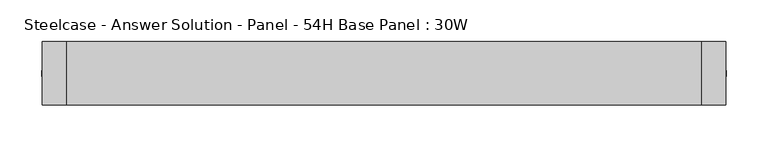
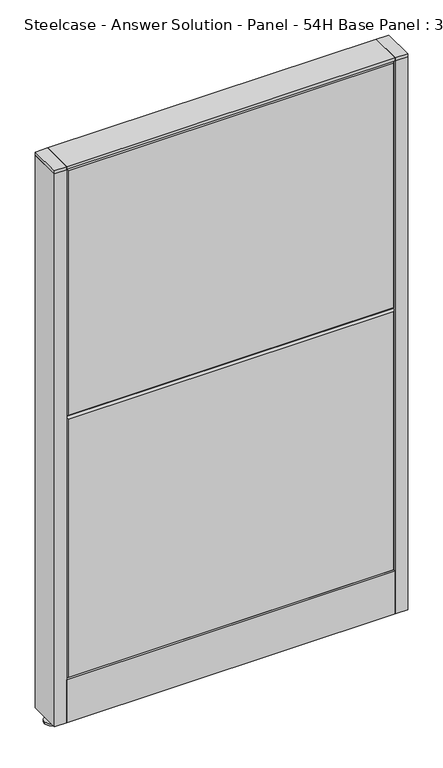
"""IFC4 building model written with IfcOpenShell, lengths in millimetres: furniture geometry, Steelcase - Answer Solution - Panel - 54H Base Panel : 30W."""

import ifcopenshell
import ifcopenshell.guid

model = None  # the IFC model being written
_history = None  # IfcOwnerHistory: only IFC2X3 demands one
_inside = {}  # id of a spatial element -> (the spatial element, [elements in it])
_under = {}  # id of a project, library or spatial element -> (it, [spatial elements below it])
_declared = {}  # id of a project -> (the project, [libraries it declares])
_typed = {}  # id of a type object -> (the type object, [elements of that type])
_made_of = {}  # id of a material, layer set ... -> (it, [elements and type objects made of it])


def new_model(schema):
    """Start an empty IFC model of exactly this schema.

    Asked for "IFC4X3", IfcOpenShell would pick the latest addendum, in which some entities
    have other attributes; the version numbers below select the first issue.
    IFC2X3 requires an IfcOwnerHistory on every rooted entity: one is made here for all.
    """
    global model, _history
    if schema == "IFC4X3":
        model = ifcopenshell.file(schema_version=(4, 3, 0, 0))
    else:
        model = ifcopenshell.file(schema=schema)
    _inside.clear()
    _under.clear()
    _declared.clear()
    _typed.clear()
    _made_of.clear()
    _history = None
    if model.schema == "IFC2X3":
        org = make("IfcOrganization", Name="unknown")
        user = make(
            "IfcPersonAndOrganization",
            ThePerson=make("IfcPerson", FamilyName="unknown"),
            TheOrganization=org,
        )
        app = make(
            "IfcApplication",
            ApplicationDeveloper=org,
            Version="unknown",
            ApplicationFullName="unknown",
            ApplicationIdentifier="unknown",
        )
        _history = make(
            "IfcOwnerHistory",
            OwningUser=user,
            OwningApplication=app,
            ChangeAction="ADDED",
            CreationDate=0,
        )
    return model


def make(cls, **values):
    """One entity of the class cls with the attributes given. An attribute that is None is left unset."""
    return model.create_entity(
        cls, **{name: value for name, value in values.items() if value is not None}
    )


def rooted(cls, **values):
    """An entity with a GlobalId (a new one), such as an element, a storey or a relation."""
    return make(cls, GlobalId=ifcopenshell.guid.new(), OwnerHistory=_history, **values)


def si_unit(unit_type, name, prefix=None):
    """IfcSIUnit, for example si_unit("LENGTHUNIT", "METRE", prefix="MILLI")."""
    return make("IfcSIUnit", UnitType=unit_type, Prefix=prefix, Name=name)


def assignment(units):
    """IfcUnitAssignment: the units of a project."""
    return None if units is None else make("IfcUnitAssignment", Units=units)


def point(xyz):
    """IfcCartesianPoint."""
    return None if xyz is None else make("IfcCartesianPoint", Coordinates=xyz)


def direction(xyz):
    """IfcDirection."""
    return None if xyz is None else make("IfcDirection", DirectionRatios=xyz)


def frame(location, z_axis=None, x_axis=None):
    """IfcAxis2Placement3D, a coordinate frame: its origin and axes. An axis left out is left unset."""
    return make(
        "IfcAxis2Placement3D",
        Location=point(location),
        Axis=direction(z_axis),
        RefDirection=direction(x_axis),
    )


def frame_2d(location, x_axis=None):
    """IfcAxis2Placement2D, a coordinate frame in the plane: its origin and x axis."""
    return make(
        "IfcAxis2Placement2D", Location=point(location), RefDirection=direction(x_axis)
    )


def origin():
    """The frame at (0, 0, 0) with its axes left unset."""
    return frame((0.0, 0.0, 0.0))


def place(relative_to, where):
    """IfcLocalPlacement: puts the frame where relative to a parent placement (None: the world)."""
    return make(
        "IfcLocalPlacement", PlacementRelTo=relative_to, RelativePlacement=where
    )


def context(
    kind, dimensions, precision=None, world=None, true_north=None, identifier=None
):
    """IfcGeometricRepresentationContext, for example the 3D "Model" context."""
    return make(
        "IfcGeometricRepresentationContext",
        ContextIdentifier=identifier,
        ContextType=kind,
        CoordinateSpaceDimension=dimensions,
        Precision=precision,
        WorldCoordinateSystem=world,
        TrueNorth=true_north,
    )


def project(units=None, contexts=None):
    """IfcProject with its units and contexts."""
    return rooted(
        "IfcProject",
        Name="project",
        RepresentationContexts=contexts,
        UnitsInContext=assignment(units),
    )


def spatial(cls, under=None, at=None, **own):
    """A site, building, storey or space (cls), placed at a placement, below another one or the project."""
    s = rooted(cls, ObjectPlacement=at, **own)
    if under is not None:
        _under.setdefault(under.id(), (under, []))[1].append(s)
    return s


def polyline(points):
    """IfcPolyline through the points."""
    return make("IfcPolyline", Points=[point(p) for p in points])


def circle_curve(where, radius):
    """IfcCircle in the frame where."""
    return make("IfcCircle", Position=where, Radius=radius)


def trimmed(basis, trim1, trim2, sense, master):
    """IfcTrimmedCurve: the piece of a basis curve between two trims."""
    return make(
        "IfcTrimmedCurve",
        BasisCurve=basis,
        Trim1=trim1,
        Trim2=trim2,
        SenseAgreement=sense,
        MasterRepresentation=master,
    )


def segment(curve, same_sense, transition):
    """IfcCompositeCurveSegment."""
    return make(
        "IfcCompositeCurveSegment",
        Transition=transition,
        SameSense=same_sense,
        ParentCurve=curve,
    )


def composite_curve(segments, self_intersect=None):
    """IfcCompositeCurve: segments joined end to end."""
    return make("IfcCompositeCurve", Segments=segments, SelfIntersect=self_intersect)


def outline(outer, holes=None, kind="AREA"):
    """IfcArbitraryClosedProfileDef: a profile drawn as a closed curve; with holes, ...WithVoids."""
    if holes is None:
        return make("IfcArbitraryClosedProfileDef", ProfileType=kind, OuterCurve=outer)
    return make(
        "IfcArbitraryProfileDefWithVoids",
        ProfileType=kind,
        OuterCurve=outer,
        InnerCurves=holes,
    )


def extrude(swept, where, along, depth):
    """IfcExtrudedAreaSolid: the profile swept, set in the frame where, extruded along a direction by depth."""
    return make(
        "IfcExtrudedAreaSolid",
        SweptArea=swept,
        Position=where,
        ExtrudedDirection=direction(along),
        Depth=depth,
    )


def faces_of(points, faces, orient=None, outer=None):
    """IfcFace entities. A face is a list of loops; a loop is a list of indices into points, from 0.

    orient and outer hold one flag for each loop. By default every Orientation is true, the
    first loop of a face is its IfcFaceOuterBound and the others are IfcFaceBound.
    """
    made = []
    for i, loops in enumerate(faces):
        bounds = []
        for j, loop in enumerate(loops):
            is_outer = j == 0 if outer is None else outer[i][j]
            bounds.append(
                make(
                    "IfcFaceOuterBound" if is_outer else "IfcFaceBound",
                    Bound=make("IfcPolyLoop", Polygon=[points[k] for k in loop]),
                    Orientation=True if orient is None else orient[i][j],
                )
            )
        made.append(make("IfcFace", Bounds=bounds))
    return made


def faceted_brep(points, faces, orient=None, outer=None, voids=None):
    """IfcFacetedBrep: a solid bounded by flat faces; with voids (closed shells), ...WithVoids."""
    shared = [point(p) for p in points]
    hull = make("IfcClosedShell", CfsFaces=faces_of(shared, faces, orient, outer))
    if voids is None:
        return make("IfcFacetedBrep", Outer=hull)
    return make(
        "IfcFacetedBrepWithVoids",
        Outer=hull,
        Voids=[
            make(cls, CfsFaces=faces_of(shared, fs, o, b)) for cls, fs, o, b in voids
        ],
    )


def shape(context_of_items, identifier, shape_type, items):
    """IfcShapeRepresentation: the items that make up one representation, for example the "Body"."""
    return make(
        "IfcShapeRepresentation",
        ContextOfItems=context_of_items,
        RepresentationIdentifier=identifier,
        RepresentationType=shape_type,
        Items=items,
    )


def source(mapping_origin, context_of_items, identifier, shape_type, items):
    """IfcRepresentationMap: a shape defined once, which mapped items show again and again."""
    return make(
        "IfcRepresentationMap",
        MappingOrigin=mapping_origin,
        MappedRepresentation=shape(context_of_items, identifier, shape_type, items),
    )


def transform(
    local_origin,
    x_axis=None,
    y_axis=None,
    z_axis=None,
    scale=None,
    scale2=None,
    scale3=None,
    uniform=True,
):
    """IfcCartesianTransformationOperator3D, or its non-uniform kind. x_axis, y_axis, z_axis: its Axis1, 2, 3."""
    if uniform:
        return make(
            "IfcCartesianTransformationOperator3D",
            Axis1=direction(x_axis),
            Axis2=direction(y_axis),
            LocalOrigin=point(local_origin),
            Scale=scale,
            Axis3=direction(z_axis),
        )
    return make(
        "IfcCartesianTransformationOperator3DnonUniform",
        Axis1=direction(x_axis),
        Axis2=direction(y_axis),
        LocalOrigin=point(local_origin),
        Scale=scale,
        Axis3=direction(z_axis),
        Scale2=scale2,
        Scale3=scale3,
    )


def mapped(mapping_source, mapping_target):
    """IfcMappedItem: shows the shape of a source again, moved by a transform."""
    return make(
        "IfcMappedItem", MappingSource=mapping_source, MappingTarget=mapping_target
    )


def made_of(thing, what):
    """Note that an element or type object is made of a material, layer set ...; save() writes the relation."""
    if what is not None:
        _made_of.setdefault(what.id(), (what, []))[1].append(thing)
    return thing


def element(
    cls,
    number,
    at=None,
    inside=None,
    cuts=None,
    type_object=None,
    material=None,
    context=None,
    identifier="Body",
    shape_type=None,
    held_by="IfcProductDefinitionShape",
    body=None,
    shapes=None,
    **own,
):
    """One element of the class cls, such as IfcWall. Its Tag is "e" and its number.

    at: its placement. inside: the storey or other place that contains it. cuts: it is an
    opening in that element (IfcRelVoidsElement). A single representation is given by context,
    identifier, shape_type and body (its items); several are given by shapes. held_by: the class
    of the entity that holds the representations. save() writes the other relations.
    """
    e = rooted(cls, Tag="e%d" % number, ObjectPlacement=at, **own)
    if body is not None:
        shapes = [shape(context, identifier, shape_type, body)]
    if shapes is not None:
        e.Representation = make(held_by, Representations=shapes)
    if inside is not None:
        _inside.setdefault(inside.id(), (inside, []))[1].append(e)
    if cuts is not None:
        rooted(
            "IfcRelVoidsElement", RelatingBuildingElement=cuts, RelatedOpeningElement=e
        )
    if type_object is not None:
        _typed.setdefault(type_object.id(), (type_object, []))[1].append(e)
    return made_of(e, material)


def aggregate(whole, parts):
    """IfcRelAggregates: a whole, such as a stair, and the parts it consists of."""
    return rooted("IfcRelAggregates", RelatingObject=whole, RelatedObjects=parts)


def save(model, path):
    """Write the relations noted so far, then the file.

    IfcRelAggregates (storeys below a building ...), IfcRelContainedInSpatialStructure (elements
    in a storey), IfcRelDefinesByType, IfcRelAssociatesMaterial and IfcRelDeclares: one each for
    every whole, place, type object, material and project.
    """
    for whole, parts in _under.values():
        aggregate(whole, parts)
    for where, things in _inside.values():
        rooted(
            "IfcRelContainedInSpatialStructure",
            RelatedElements=things,
            RelatingStructure=where,
        )
    for kind, things in _typed.values():
        rooted("IfcRelDefinesByType", RelatedObjects=things, RelatingType=kind)
    for what, things in _made_of.values():
        rooted("IfcRelAssociatesMaterial", RelatedObjects=things, RelatingMaterial=what)
    for by, libraries in _declared.values():
        rooted("IfcRelDeclares", RelatingContext=by, RelatedDefinitions=libraries)
    model.write(path)


def steelcase_answer_solution_panel_54h_base_panel_30w_994115fd(model_context):
    return source(origin(), model_context, "Body", "SolidModel", [
        extrude(outline(composite_curve([segment(trimmed(circle_curve(frame_2d((395.224, 0.0320214)), 5.08), [point((400.304, 0.0320214))], [point((390.144, 0.0320214))], False, "CARTESIAN"), True, "CONTINUOUS"), segment(trimmed(circle_curve(frame_2d((395.224, 0.0320214)), 5.08), [point((390.144, 0.0320214))], [point((400.304, 0.0320214))], False, "CARTESIAN"), True, "CONTINUOUS")], self_intersect=False)), frame((0.0, 0.0, 5.0799671), z_axis=(0.0, 0.0, 1.0), x_axis=(1.0, 0.0, 0.0)), (0.0, 0.0, 1.0), 10.414),
        extrude(outline(composite_curve([segment(trimmed(circle_curve(frame_2d((395.224, 0.0320214)), 15.24), [point((410.464, 0.0320214))], [point((379.984, 0.0320214))], False, "CARTESIAN"), True, "CONTINUOUS"), segment(trimmed(circle_curve(frame_2d((395.224, 0.0320214)), 15.24), [point((379.984, 0.0320214))], [point((410.464, 0.0320214))], False, "CARTESIAN"), True, "CONTINUOUS")], self_intersect=False)), frame((0.0, 0.0, -3.29e-05), z_axis=(0.0, 0.0, 1.0), x_axis=(1.0, 0.0, 0.0)), (0.0, 0.0, 1.0), 5.08),
        extrude(outline(polyline([(409.575, 38.1320408), (409.575, -38.0679592), (381.0, -38.0679592), (381.0, 38.1320408), (409.575, 38.1320408)])), frame((0.0, 0.0, 1370.6348), z_axis=(0.0, 0.0, 1.0), x_axis=(1.0, 0.0, 0.0)), (0.0, 0.0, 1.0), 7.3151671),
        extrude(outline(polyline([(409.575, 38.1320408), (409.575, -38.0679592), (381.0, -38.0679592), (381.0, 38.1320408), (409.575, 38.1320408)])), frame((0.0, 0.0, 15.4939671), z_axis=(0.0, 0.0, 1.0), x_axis=(1.0, 0.0, 0.0)), (0.0, 0.0, 1.0), 1355.1408329),
        extrude(outline(composite_curve([segment(trimmed(circle_curve(frame_2d((-395.224, 0.0320214)), 5.08), [point((-400.304, 0.0320214))], [point((-390.144, 0.0320214))], False, "CARTESIAN"), True, "CONTINUOUS"), segment(trimmed(circle_curve(frame_2d((-395.224, 0.0320214)), 5.08), [point((-390.144, 0.0320214))], [point((-400.304, 0.0320214))], False, "CARTESIAN"), True, "CONTINUOUS")], self_intersect=False)), frame((0.0, 0.0, 5.0799671), z_axis=(0.0, 0.0, 1.0), x_axis=(1.0, 0.0, 0.0)), (0.0, 0.0, 1.0), 10.414),
        extrude(outline(composite_curve([segment(trimmed(circle_curve(frame_2d((-395.224, 0.0320214)), 15.24), [point((-410.464, 0.0320214))], [point((-379.984, 0.0320214))], False, "CARTESIAN"), True, "CONTINUOUS"), segment(trimmed(circle_curve(frame_2d((-395.224, 0.0320214)), 15.24), [point((-379.984, 0.0320214))], [point((-410.464, 0.0320214))], False, "CARTESIAN"), True, "CONTINUOUS")], self_intersect=False)), frame((0.0, 0.0, -3.29e-05), z_axis=(0.0, 0.0, 1.0), x_axis=(1.0, 0.0, 0.0)), (0.0, 0.0, 1.0), 5.08),
        extrude(outline(polyline([(-409.575, 38.1320408), (-381.0, 38.1320408), (-381.0, -38.0679592), (-409.575, -38.0679592), (-409.575, 38.1320408)])), frame((0.0, 0.0, 1370.6348), z_axis=(0.0, 0.0, 1.0), x_axis=(1.0, 0.0, 0.0)), (0.0, 0.0, 1.0), 7.3151671),
        extrude(outline(polyline([(-409.575, 38.1320408), (-381.0, 38.1320408), (-381.0, -38.0679592), (-409.575, -38.0679592), (-409.575, 38.1320408)])), frame((0.0, 0.0, 15.4939671), z_axis=(0.0, 0.0, 1.0), x_axis=(1.0, 0.0, 0.0)), (0.0, 0.0, 1.0), 1355.1408329),
        faceted_brep([(-376.174, 38.1635011, 1366.774), (376.174, 38.1635011, 1366.774), (376.174, 38.1635011, 766.826), (-376.174, 38.1635011, 766.826), (-381.0, 33.3375011, 1371.6), (-381.0, 33.3375011, 762.0), (381.0, 33.3375011, 762.0), (381.0, 33.3375011, 1371.6)], [[[0, 1, 2, 3]], [[4, 5, 6, 7]], [[4, 7, 1, 0]], [[7, 6, 2, 1]], [[6, 5, 3, 2]], [[5, 4, 0, 3]]]),
        faceted_brep([(-376.174, 38.1635011, 757.174), (376.174, 38.1635011, 757.174), (376.174, 38.1635011, 125.476), (-376.174, 38.1635011, 125.476), (-381.0, 33.3375011, 762.0), (-381.0, 33.3375011, 120.65), (381.0, 33.3375011, 120.65), (381.0, 33.3375011, 762.0)], [[[0, 1, 2, 3]], [[4, 5, 6, 7]], [[4, 7, 1, 0]], [[7, 6, 2, 1]], [[6, 5, 3, 2]], [[5, 4, 0, 3]]]),
        faceted_brep([(376.174, -38.1635011, 1366.774), (-376.174, -38.1635011, 1366.774), (-376.174, -38.1635011, 766.826), (376.174, -38.1635011, 766.826), (381.0, -33.3375011, 1371.6), (381.0, -33.3375011, 762.0), (-381.0, -33.3375011, 762.0), (-381.0, -33.3375011, 1371.6)], [[[0, 1, 2, 3]], [[4, 5, 6, 7]], [[4, 7, 1, 0]], [[7, 6, 2, 1]], [[6, 5, 3, 2]], [[5, 4, 0, 3]]]),
        faceted_brep([(376.174, -38.1635011, 757.174), (-376.174, -38.1635011, 757.174), (-376.174, -38.1635011, 125.476), (376.174, -38.1635011, 125.476), (381.0, -33.3375011, 762.0), (381.0, -33.3375011, 120.65), (-381.0, -33.3375011, 120.65), (-381.0, -33.3375011, 762.0)], [[[0, 1, 2, 3]], [[4, 5, 6, 7]], [[4, 7, 1, 0]], [[7, 6, 2, 1]], [[6, 5, 3, 2]], [[5, 4, 0, 3]]]),
        extrude(outline(polyline([(381.0, 38.1000194), (381.0, -38.1000194), (-381.0, -38.1000194), (-381.0, 38.1000194), (381.0, 38.1000194)])), frame((0.0, 0.0, 1371.6), z_axis=(0.0, 0.0, 1.0), x_axis=(1.0, 0.0, 0.0)), (0.0, 0.0, 1.0), 6.35),
        extrude(outline(polyline([(25.4000011, 119.8575157), (25.4000011, 120.65), (38.1000194, 120.65), (38.1000194, 15.494), (37.3075215, 15.494), (37.3075215, 119.8575157), (25.4000011, 119.8575157)])), frame((-381.0, 0.0, 0.0), z_axis=(1.0, 0.0, 0.0), x_axis=(0.0, 1.0, 0.0)), (0.0, 0.0, 1.0), 762.0),
        extrude(outline(polyline([(-25.4000011, 119.8575157), (-37.3075215, 119.8575157), (-37.3075215, 15.494), (-38.1000194, 15.494), (-38.1000194, 120.65), (-25.4000011, 120.65), (-25.4000011, 119.8575157)])), frame((-381.0, 0.0, 0.0), z_axis=(1.0, 0.0, 0.0), x_axis=(0.0, 1.0, 0.0)), (0.0, 0.0, 1.0), 762.0),
    ])


if __name__ == "__main__":
    model = new_model("IFC4")
    model_context = context("Model", 3, world=origin())
    ifc_project = project(units=[si_unit("LENGTHUNIT", "METRE", prefix="MILLI")], contexts=[model_context])
    site = spatial("IfcSite", under=ifc_project)
    building = spatial("IfcBuilding", under=site)
    placement = place(None, origin())
    steelcase_answer_solution_panel_54h_base_panel_30w_shape = steelcase_answer_solution_panel_54h_base_panel_30w_994115fd(model_context)
    element("IfcFurniture", 1, ObjectType="Steelcase - Answer Solution - Panel - 54H Base Panel : 30W", at=placement, inside=building, context=model_context, shape_type="MappedRepresentation", body=[
        mapped(steelcase_answer_solution_panel_54h_base_panel_30w_shape, transform((0.0, 0.0, 0.0), x_axis=(1.0, 0.0, 0.0), y_axis=(0.0, 1.0, 0.0), z_axis=(0.0, 0.0, 1.0))),
    ])
    save(model, "model.ifc")
